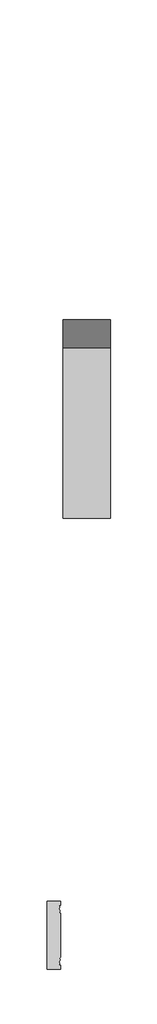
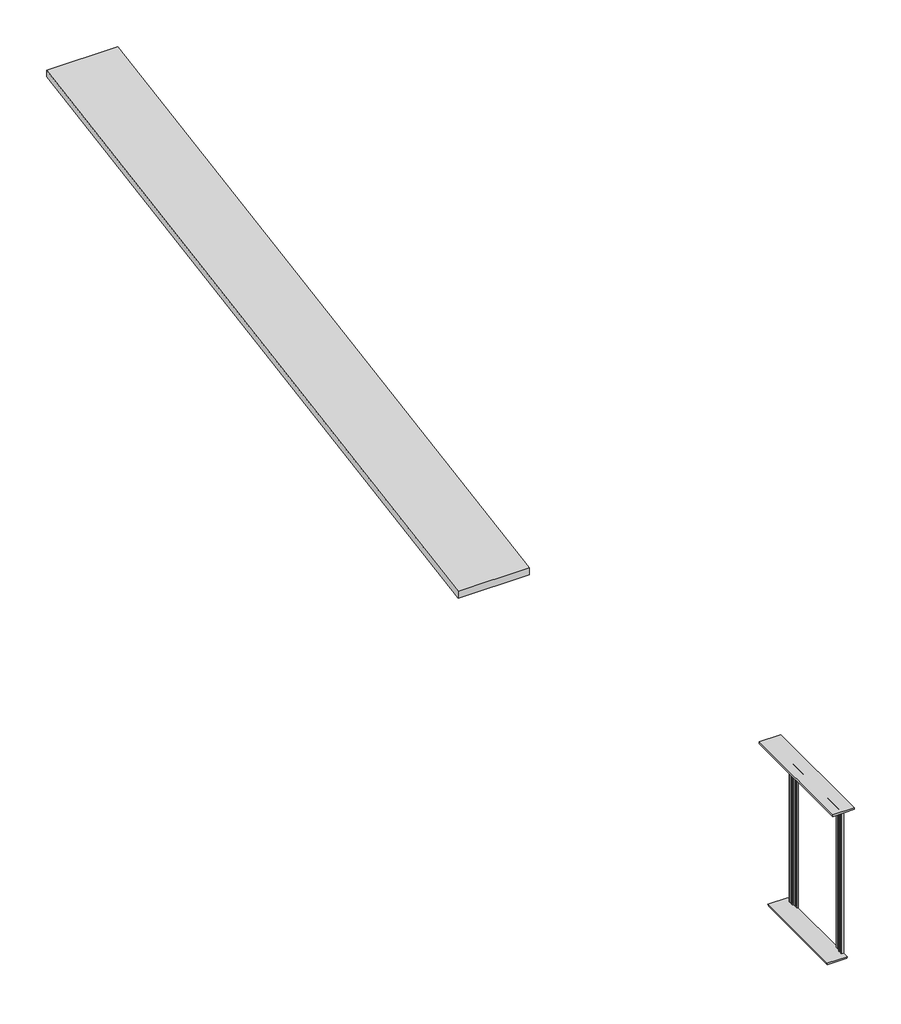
# One storey, incomplete: 1 proxy, 1 ramp.
"""IFC4 building model written with IfcOpenShell, lengths in millimetres."""

from ifc_helpers import new_model, si_unit, origin, place, context, project, spatial, transform, mapped, element, save
from components import type_1_4bf1130a, standard_3_bb9b2080

model = new_model("IFC4")

# Units and contexts
model_context = context("Model", 3, world=origin())
ifc_project = project(units=[si_unit("LENGTHUNIT", "METRE", prefix="MILLI")], contexts=[model_context])

# Site, building, storey
site = spatial("IfcSite", under=ifc_project)
building = spatial("IfcBuilding", under=site)
storey = spatial("IfcBuildingStorey", under=building, Name="FL BLV", Elevation=6000.0)

# Proxy
placement = place(None, origin())
type_1_shape = type_1_4bf1130a(model_context)
element("IfcBuildingElementProxy", 1, Name="Family1.rfa122231 : Type 1", ObjectType="Family1.rfa122231 : Type 1", at=placement, inside=storey, context=model_context, shape_type="MappedRepresentation", body=[
    mapped(type_1_shape, transform((-13131.6874983, -2094.9711746, 6000.0), x_axis=(0.0, 1.0, 0.0), y_axis=(-1.0, 0.0, 0.0), z_axis=(0.0, 0.0, 1.0))),
])

# Ramp
standard_3_shape = standard_3_bb9b2080(model_context)
element("IfcRamp", 2, ObjectType="Standard 3", at=placement, inside=storey, context=model_context, shape_type="MappedRepresentation", body=[
    mapped(standard_3_shape, transform((0.0, 0.0, 0.0), x_axis=(1.0, 0.0, 0.0), y_axis=(0.0, 1.0, 0.0), z_axis=(0.0, 0.0, 1.0))),
])

save(model, "model.ifc")
